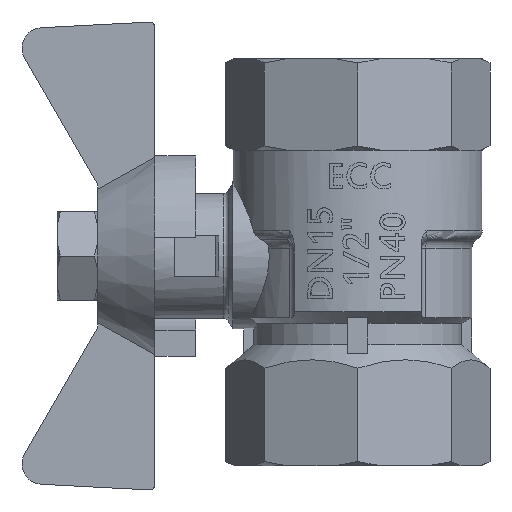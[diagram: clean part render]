
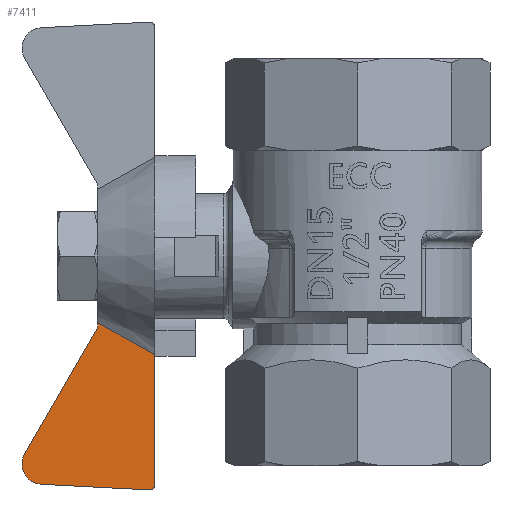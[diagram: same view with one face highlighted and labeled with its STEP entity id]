
A CAD part, left-side view. The second image highlights one B-rep face of the part: STEP entity #7411.
In plain terms, the highlighted planar face has unit normal (-1, 0, 0).
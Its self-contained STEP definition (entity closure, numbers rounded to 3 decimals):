
#173=(
BOUNDED_CURVE()
B_SPLINE_CURVE(2,(#19484,#19485,#19486),.UNSPECIFIED.,.F.,.F.)
B_SPLINE_CURVE_WITH_KNOTS((3,3),(0.,0.642),.UNSPECIFIED.)
CURVE()
GEOMETRIC_REPRESENTATION_ITEM()
RATIONAL_B_SPLINE_CURVE((1.,1.018,1.))
REPRESENTATION_ITEM('')
);
#418=PLANE('',#7977);
#662=CIRCLE('',#7978,2.);
#663=CIRCLE('',#7979,0.5);
#1124=FACE_OUTER_BOUND('',#1578,.T.);
#1578=EDGE_LOOP('',(#6749,#6750,#6751,#6752,#6753,#6754,#6755));
#2094=LINE('',#19469,#2607);
#2100=LINE('',#19488,#2613);
#2101=LINE('',#19490,#2614);
#2102=LINE('',#19494,#2615);
#2607=VECTOR('',#9544,10.);
#2613=VECTOR('',#9556,10.);
#2614=VECTOR('',#9557,10.);
#2615=VECTOR('',#9560,10.);
#3555=VERTEX_POINT('',#19466);
#3556=VERTEX_POINT('',#19468);
#3562=VERTEX_POINT('',#19483);
#3563=VERTEX_POINT('',#19487);
#3564=VERTEX_POINT('',#19489);
#3565=VERTEX_POINT('',#19491);
#3566=VERTEX_POINT('',#19493);
#4645=EDGE_CURVE('',#3556,#3555,#2094,.T.);
#4653=EDGE_CURVE('',#3562,#3555,#173,.T.);
#4654=EDGE_CURVE('',#3562,#3563,#2100,.T.);
#4655=EDGE_CURVE('',#3563,#3564,#2101,.T.);
#4656=EDGE_CURVE('',#3564,#3565,#662,.T.);
#4657=EDGE_CURVE('',#3565,#3566,#2102,.T.);
#4658=EDGE_CURVE('',#3566,#3556,#663,.T.);
#6749=ORIENTED_EDGE('',*,*,#4653,.F.);
#6750=ORIENTED_EDGE('',*,*,#4654,.T.);
#6751=ORIENTED_EDGE('',*,*,#4655,.T.);
#6752=ORIENTED_EDGE('',*,*,#4656,.T.);
#6753=ORIENTED_EDGE('',*,*,#4657,.T.);
#6754=ORIENTED_EDGE('',*,*,#4658,.T.);
#6755=ORIENTED_EDGE('',*,*,#4645,.T.);
#7411=ADVANCED_FACE('',(#1124),#418,.F.);
#7977=AXIS2_PLACEMENT_3D('',#19482,#9554,#9555);
#7978=AXIS2_PLACEMENT_3D('',#19492,#9558,#9559);
#7979=AXIS2_PLACEMENT_3D('',#19495,#9561,#9562);
#9544=DIRECTION('',(0.,0.,1.));
#9554=DIRECTION('center_axis',(1.,0.,0.));
#9555=DIRECTION('ref_axis',(0.,0.,-1.));
#9556=DIRECTION('',(0.,0.,-1.));
#9557=DIRECTION('',(0.,0.5,-0.866));
#9558=DIRECTION('center_axis',(-1.,0.,0.));
#9559=DIRECTION('ref_axis',(0.,0.052,-0.999));
#9560=DIRECTION('',(0.,-0.999,-0.052));
#9561=DIRECTION('center_axis',(-1.,0.,0.));
#9562=DIRECTION('ref_axis',(0.,-1.,0.));
#19466=CARTESIAN_POINT('',(-2.5,19.93,-9.682));
#19468=CARTESIAN_POINT('',(-2.5,19.93,-22.473));
#19469=CARTESIAN_POINT('',(-2.5,19.93,22.473));
#19482=CARTESIAN_POINT('Origin',(-2.5,24.599,0.));
#19483=CARTESIAN_POINT('',(-2.5,25.53,-6.538));
#19484=CARTESIAN_POINT('Ctrl Pts',(-2.5,25.53,-6.538));
#19485=CARTESIAN_POINT('Ctrl Pts',(-2.5,23.273,-7.833));
#19486=CARTESIAN_POINT('Ctrl Pts',(-2.5,19.93,-9.682));
#19487=CARTESIAN_POINT('',(-2.5,25.53,-7.));
#19488=CARTESIAN_POINT('',(-2.5,25.53,-7.));
#19489=CARTESIAN_POINT('',(-2.5,32.7,-19.419));
#19490=CARTESIAN_POINT('',(-2.5,32.7,-19.419));
#19491=CARTESIAN_POINT('',(-2.5,31.072,-22.416));
#19492=CARTESIAN_POINT('Origin',(-2.5,30.968,-20.419));
#19493=CARTESIAN_POINT('',(-2.5,20.456,-22.972));
#19494=CARTESIAN_POINT('',(-2.5,20.456,-22.972));
#19495=CARTESIAN_POINT('Origin',(-2.5,20.43,-22.473));
